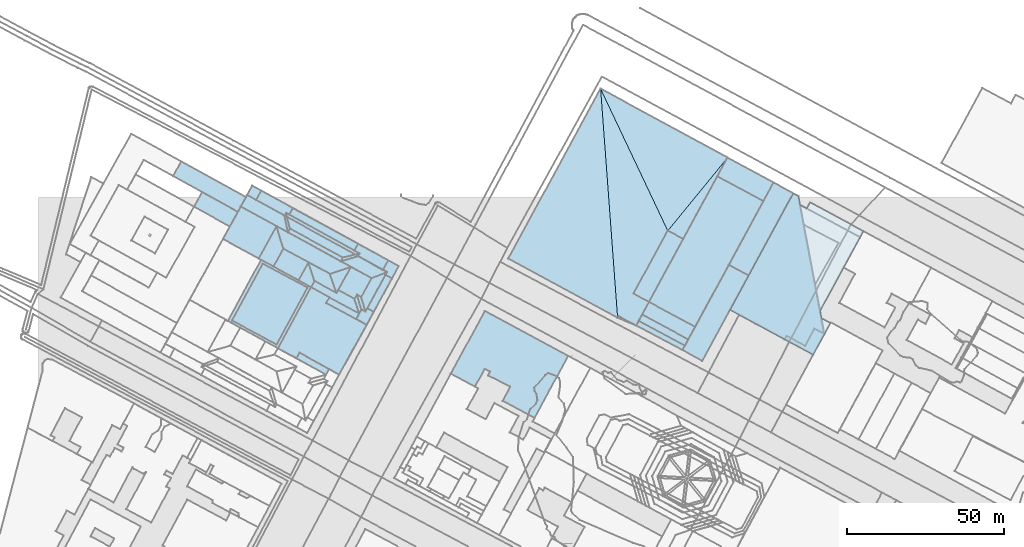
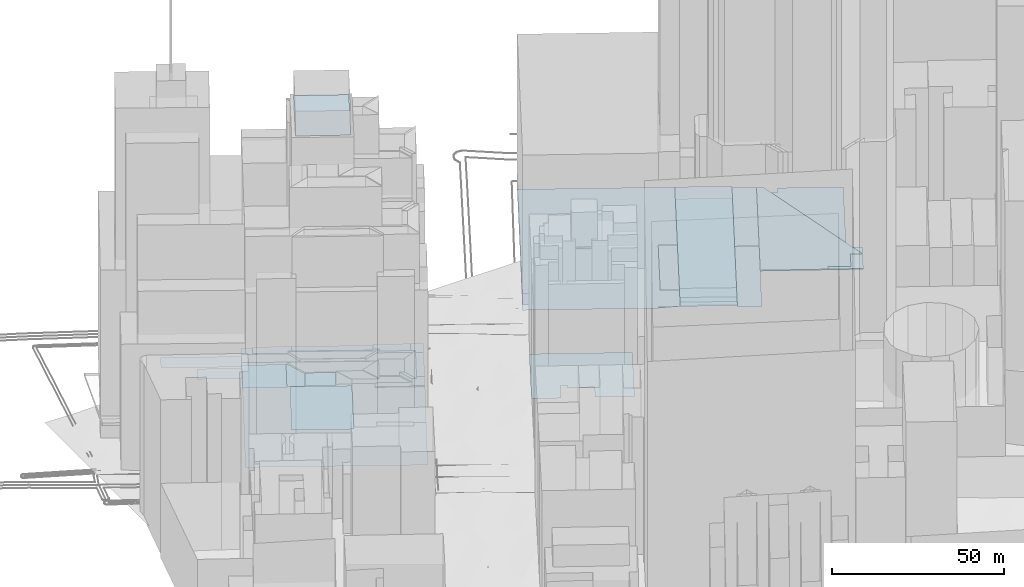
# Not in any storey, part 11 of 76: 45 footings.
"""IFC2X3 model written with IfcOpenShell, lengths in metres."""

from ifc_helpers import new_model, si_unit, frame, origin_with_axes, place, context, subcontext, project, faceted_brep, element, save


model = new_model("IFC2X3")

# Units and contexts
model_context = context("Model", 3, precision=1e-05, world=origin_with_axes())
body_context = subcontext(model_context, "Body", "Model", "MODEL_VIEW")
ifc_project = project(units=[si_unit("AREAUNIT", "SQUARE_METRE"), si_unit("LENGTHUNIT", "METRE")], contexts=[model_context])

# Footings
footing_1_placement = place(None, frame((219.6501998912, 358.1121317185, 21.8344391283), z_axis=(0.0, 0.0, 1.0), x_axis=(1.0, 0.0, 0.0)))
element("IfcFooting", 1, at=footing_1_placement, Name="Sol 0", PredefinedType="STRIP_FOOTING", context=body_context, shape_type="Brep", body=[
    faceted_brep([(6.2692645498, -3.4020859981, 0.0), (0.0, 0.0, 0.0), (14.1893424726, 26.1665450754, 0.0), (20.4756016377, 22.7535668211, 0.0)], [[[0, 1, 2]], [[2, 3, 0]]]),
])
footing_2_placement = place(None, frame((237.4075822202, 334.4377302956, 21.8574343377), z_axis=(0.0, 0.0, 1.0), x_axis=(1.0, 0.0, 0.0)))
element("IfcFooting", 2, at=footing_2_placement, Name="Sol 0", PredefinedType="STRIP_FOOTING", context=body_context, shape_type="Brep", body=[
    faceted_brep([(9.0722546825, -4.8904699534, 0.0), (0.0, 0.0, 0.0), (0.6119191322, 1.095140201, 0.0), (9.4062271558, 3.4068039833, 0.0), (12.6339095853, 1.6902007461, 0.0), (6.507259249, -2.0892360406, 0.0)], [[[0, 1, 2]], [[3, 4, 0]], [[0, 2, 5]], [[5, 3, 0]]]),
])
footing_3_placement = place(None, frame((220.0023122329, 343.8054149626, 21.493715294), z_axis=(0.0, 0.0, 1.0), x_axis=(1.0, 0.0, 0.0)))
element("IfcFooting", 3, at=footing_3_placement, Name="Sol 0", PredefinedType="STRIP_FOOTING", context=body_context, shape_type="Brep", body=[
    faceted_brep([(26.4775246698, -14.2581546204, 0.0), (0.0, 0.0, 0.0), (20.1234892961, 37.0602835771, 0.0), (29.1545647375, -2.74727068, 0.0), (31.9063663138, -4.1918534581, 0.0), (25.5002002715, 34.1918411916, 0.0), (42.4133124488, 25.0405352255, 0.0), (28.6785615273, -0.2881071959, 0.0), (21.8057455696, 36.1250606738, 0.0), (22.3276907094, 33.344465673, 0.0), (24.4257112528, 32.2253420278, 0.0)], [[[0, 1, 2]], [[3, 4, 0]], [[5, 6, 7]], [[2, 8, 9]], [[3, 0, 2]], [[10, 5, 7]], [[7, 3, 2]], [[9, 10, 7]], [[7, 2, 9]]]),
])
footing_4_placement = place(None, frame((220.0023122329, 343.8054149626, 21.8574343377), z_axis=(0.0, 0.0, 1.0), x_axis=(1.0, 0.0, 0.0)))
element("IfcFooting", 4, at=footing_4_placement, Name="Sol 0", PredefinedType="STRIP_FOOTING", context=body_context, shape_type="Brep", body=[
    faceted_brep([(17.4052699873, -9.367684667, 0.0), (0.0, 0.0, 0.0), (20.1234892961, 37.0602835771, 0.0), (26.8114971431, -5.9608806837, 0.0), (23.9125292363, -11.4569207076, 0.0), (18.0171891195, -8.272544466, 0.0), (21.8057455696, 36.1250606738, 0.0), (30.0391795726, -7.6774839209, 0.0)], [[[0, 1, 2]], [[3, 4, 5]], [[6, 7, 3]], [[0, 2, 6]], [[6, 3, 5]], [[5, 0, 6]]]),
])
footing_5_placement = place(None, frame((194.2357723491, 346.2924328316, 22.8993147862), z_axis=(0.0, 0.0, 1.0), x_axis=(1.0, 0.0, 0.0)))
element("IfcFooting", 5, at=footing_5_placement, Name="Sol 0", PredefinedType="STRIP_FOOTING", context=body_context, shape_type="Brep", body=[
    faceted_brep([(14.695507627, -7.911555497, 0.0), (0.0, 0.0, 0.0), (21.7021083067, 39.9651582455, 0.0), (36.3976918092, 32.0425454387, 0.0)], [[[0, 1, 2]], [[2, 3, 0]]]),
])
footing_6_placement = place(None, frame((189.3088417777, 348.9551990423, 22.410062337), z_axis=(0.0, 0.0, 1.0), x_axis=(1.0, 0.0, 0.0)))
element("IfcFooting", 6, at=footing_6_placement, Name="Sol 0", PredefinedType="STRIP_FOOTING", context=body_context, shape_type="Brep", body=[
    faceted_brep([(4.9269305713, -2.6627662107, 0.0), (0.0, 0.0, 0.0), (10.8841438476, 20.0440098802, 0.0), (15.5890804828, -17.9709220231, 0.0), (0.8608347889, -10.1485570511, 0.0), (29.8769383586, 43.2798772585, 0.0), (44.530700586, 35.3234777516, 0.0), (15.8109363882, 17.3923517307, 0.0)], [[[0, 1, 2]], [[3, 4, 0]], [[5, 6, 3]], [[0, 2, 7]], [[5, 3, 0]], [[0, 7, 5]]]),
])
footing_7_placement = place(None, frame((189.3088417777, 348.9551990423, 22.410062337), z_axis=(0.0, 0.0, 1.0), x_axis=(1.0, 0.0, 0.0)))
element("IfcFooting", 7, at=footing_7_placement, Name="Sol 0", PredefinedType="STRIP_FOOTING", context=body_context, shape_type="Brep", body=[
    faceted_brep([(4.9269305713, -2.6627662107, 0.0), (0.0, 0.0, 0.0), (10.8841438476, 20.0440098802, 0.0), (15.8109363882, 17.3923517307, 0.0)], [[[0, 1, 2]], [[2, 3, 0]]]),
])
footing_8_placement = place(None, frame((192.0622109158, 342.2925513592, 22.833956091), z_axis=(0.0, 0.0, 1.0), x_axis=(1.0, 0.0, 0.0)))
element("IfcFooting", 8, at=footing_8_placement, Name="Sol 0", PredefinedType="STRIP_FOOTING", context=body_context, shape_type="Brep", body=[
    faceted_brep([(14.6956420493, -7.9226606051, 0.0), (0.0, 0.0, 0.0), (2.1735614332, 3.9998814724, 0.0), (16.8690690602, -3.9116740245, 0.0)], [[[0, 1, 2]], [[2, 3, 0]]]),
])
footing_9_placement = place(None, frame((190.971338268, 340.2814610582, 22.7953305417), z_axis=(0.0, 0.0, 1.0), x_axis=(1.0, 0.0, 0.0)))
element("IfcFooting", 9, at=footing_9_placement, Name="Sol 0", PredefinedType="STRIP_FOOTING", context=body_context, shape_type="Brep", body=[
    faceted_brep([(14.6956447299, -7.9226627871, 0.0), (0.0, 0.0, 0.0), (1.0908726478, 2.011090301, 0.0), (15.7865146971, -5.9115703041, 0.0)], [[[0, 1, 2]], [[2, 3, 0]]]),
])
footing_10_placement = place(None, frame((190.1696765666, 338.8066419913, 22.7695470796), z_axis=(0.0, 0.0, 1.0), x_axis=(1.0, 0.0, 0.0)))
element("IfcFooting", 10, at=footing_10_placement, Name="Sol 0", PredefinedType="STRIP_FOOTING", context=body_context, shape_type="Brep", body=[
    faceted_brep([(14.728245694, -7.822364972, 0.0), (0.0, 0.0, 0.0), (0.8016617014, 1.4748190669, 0.0), (15.4973064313, -6.4478437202, 0.0)], [[[0, 1, 2]], [[2, 3, 0]]]),
])
footing_11_placement = place(None, frame((204.8979222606, 330.9842770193, 21.8344391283), z_axis=(0.0, 0.0, 1.0), x_axis=(1.0, 0.0, 0.0)))
element("IfcFooting", 11, at=footing_11_placement, Name="Sol 0", PredefinedType="STRIP_FOOTING", context=body_context, shape_type="Brep", body=[
    faceted_brep([(6.2862894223, -3.4130030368, 0.0), (0.0, 0.0, 0.0), (14.7522776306, 27.1278546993, 0.0), (21.0215421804, 23.7257687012, 0.0)], [[[0, 1, 2]], [[2, 3, 0]]]),
])
footing_12_placement = place(None, frame((131.2414210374, 323.4889407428, 19.5874307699), z_axis=(0.0, 0.0, 1.0), x_axis=(1.0, 0.0, 0.0)))
element("IfcFooting", 12, at=footing_12_placement, Name="Sol 0", PredefinedType="STRIP_FOOTING", context=body_context, shape_type="Brep", body=[
    faceted_brep([(7.6623465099, -4.1520283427, 0.0), (0.0, 0.0, 0.0), (10.8174622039, 19.9876323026, 0.0), (18.9140593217, -4.0989897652, 0.0), (11.7910505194, -0.5957385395, 0.0), (12.4605179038, 0.6332892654, 0.0), (26.6105246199, -14.0903890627, 0.0), (16.4763130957, -8.6126311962, 0.0), (37.2957336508, 5.6514960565, 0.0), (10.7530705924, 1.557139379, 0.0)], [[[0, 1, 2]], [[3, 4, 5]], [[6, 7, 3]], [[2, 8, 6]], [[9, 0, 2]], [[2, 6, 3]], [[5, 9, 2]], [[2, 3, 5]]]),
])
footing_13_placement = place(None, frame((149.4964624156, 360.1164702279, 22.410062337), z_axis=(0.0, 0.0, 1.0), x_axis=(1.0, 0.0, 0.0)))
element("IfcFooting", 13, at=footing_13_placement, Name="Sol 0", PredefinedType="STRIP_FOOTING", context=body_context, shape_type="Brep", body=[
    faceted_brep([(34.744220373, -18.8585502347, 0.0), (0.0, 0.0, 0.0), (29.3384984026, 54.0315411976, 0.0), (44.7393099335, -13.8240373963, 0.0), (40.6732141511, -21.3098282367, 0.0), (69.6893177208, 32.1186060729, 0.0), (55.6233157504, 6.2310805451, 0.0), (50.6965232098, 8.8827386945, 0.0), (39.8123793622, -11.1612711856, 0.0)], [[[0, 1, 2]], [[3, 4, 0]], [[5, 6, 7]], [[8, 3, 0]], [[2, 5, 7]], [[8, 0, 2]], [[2, 7, 8]]]),
])
footing_14_placement = place(None, frame((149.4964624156, 360.1164702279, 22.410062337), z_axis=(0.0, 0.0, 1.0), x_axis=(1.0, 0.0, 0.0)))
element("IfcFooting", 14, at=footing_14_placement, Name="Sol 0", PredefinedType="STRIP_FOOTING", context=body_context, shape_type="Brep", body=[
    faceted_brep([(34.744220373, -18.8585502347, 0.0), (0.0, 0.0, 0.0), (29.3384984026, 54.0315411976, 0.0), (44.7393099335, -13.8240373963, 0.0), (40.6732141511, -21.3098282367, 0.0), (35.0417433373, -18.3110805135, 0.0), (69.6893177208, 32.1186060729, 0.0), (55.6233157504, 6.2310805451, 0.0), (50.6965232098, 8.8827386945, 0.0), (39.8123793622, -11.1612711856, 0.0)], [[[0, 1, 2]], [[3, 4, 5]], [[6, 7, 8]], [[5, 0, 2]], [[9, 3, 5]], [[2, 6, 8]], [[9, 5, 2]], [[2, 8, 9]]]),
])
footing_15_placement = place(None, frame((96.2081885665, 359.2420118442, 24.1378546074), z_axis=(0.0, 0.0, 1.0), x_axis=(1.0, 0.0, 0.0)))
element("IfcFooting", 15, at=footing_15_placement, Name="Sol 0", PredefinedType="STRIP_FOOTING", context=body_context, shape_type="Brep", body=[
    faceted_brep([(5.476758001, 1.5957227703, 0.0), (0.0, 0.0, 0.0), (0.6444088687, 1.2065279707, 0.0), (5.9728530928, 2.4896654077, 0.0)], [[[0, 1, 2]], [[2, 3, 0]]]),
])
footing_16_placement = place(None, frame((100.5582678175, 362.6343155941, 24.249661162), z_axis=(0.0, 0.0, 1.0), x_axis=(1.0, 0.0, 0.0)))
element("IfcFooting", 16, at=footing_16_placement, Name="Sol 0", PredefinedType="STRIP_FOOTING", context=body_context, shape_type="Brep", body=[
    faceted_brep([(1.6227738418, -0.9026383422, 0.0), (0.0, 0.0, 0.0), (1.1989392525, 2.1566610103, 0.0), (9.0533233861, -6.1787158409, 0.0), (1.12667875, -1.7965809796, 0.0), (10.7731599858, -3.0834129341, 0.0)], [[[0, 1, 2]], [[3, 4, 0]], [[2, 5, 3]], [[3, 0, 2]]]),
])
footing_17_placement = place(None, frame((95.4278204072, 350.1179975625, 24.1757851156), z_axis=(0.0, 0.0, 1.0), x_axis=(1.0, 0.0, 0.0)))
element("IfcFooting", 17, at=footing_17_placement, Name="Sol 0", PredefinedType="STRIP_FOOTING", context=body_context, shape_type="Brep", body=[
    faceted_brep([(5.1904741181, -2.8263004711, 0.0), (0.0, 0.0, 0.0), (4.0340988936, 7.3410355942, 0.0), (10.6093444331, 3.7536652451, 0.0), (7.3274473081, -2.2130597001, 0.0), (5.942800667, -1.4630871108, 0.0)], [[[0, 1, 2]], [[3, 4, 5]], [[5, 0, 2]], [[2, 3, 5]]]),
])
footing_18_placement = place(None, frame((100.6182945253, 347.2916970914, 24.2468793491), z_axis=(0.0, 0.0, 1.0), x_axis=(1.0, 0.0, 0.0)))
element("IfcFooting", 18, at=footing_18_placement, Name="Sol 0", PredefinedType="STRIP_FOOTING", context=body_context, shape_type="Brep", body=[
    faceted_brep([(1.4724916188, -4.6791504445, 0.0), (0.0, 0.0, 0.0), (0.7523265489, 1.3632133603, 0.0), (2.1913155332, -3.3385306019, 0.0)], [[[0, 1, 2]], [[2, 3, 0]]]),
])
footing_19_placement = place(None, frame((101.3706210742, 348.6549104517, 24.232721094), z_axis=(0.0, 0.0, 1.0), x_axis=(1.0, 0.0, 0.0)))
element("IfcFooting", 19, at=footing_19_placement, Name="Sol 0", PredefinedType="STRIP_FOOTING", context=body_context, shape_type="Brep", body=[
    faceted_brep([(1.4389889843, -4.7017439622, 0.0), (0.0, 0.0, 0.0), (1.3846466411, -0.7499725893, 0.0), (2.7214517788, -5.3751874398, 0.0)], [[[0, 1, 2]], [[2, 3, 0]]]),
])
footing_20_placement = place(None, frame((104.621027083, 344.2517632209, 24.2058781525), z_axis=(0.0, 0.0, 1.0), x_axis=(1.0, 0.0, 0.0)))
element("IfcFooting", 20, at=footing_20_placement, Name="Sol 0", PredefinedType="STRIP_FOOTING", context=body_context, shape_type="Brep", body=[
    faceted_brep([(2.0982656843, -1.14136393, 0.0), (0.0, 0.0, 0.0), (5.7938113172, 10.6366471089, 0.0), (7.8835058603, 9.5062875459, 0.0)], [[[0, 1, 2]], [[2, 3, 0]]]),
])
footing_21_placement = place(None, frame((102.7552677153, 347.9049378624, 24.232721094), z_axis=(0.0, 0.0, 1.0), x_axis=(1.0, 0.0, 0.0)))
element("IfcFooting", 21, at=footing_21_placement, Name="Sol 0", PredefinedType="STRIP_FOOTING", context=body_context, shape_type="Brep", body=[
    faceted_brep([(1.3368051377, -4.6252148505, 0.0), (0.0, 0.0, 0.0), (3.281897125, 5.9667249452, 0.0), (8.1803409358, 7.9332136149, 0.0)], [[[0, 1, 2]], [[2, 3, 0]]]),
])
footing_22_placement = place(None, frame((109.6115912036, 356.4555997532, 24.2810848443), z_axis=(0.0, 0.0, 1.0), x_axis=(1.0, 0.0, 0.0)))
element("IfcFooting", 22, at=footing_22_placement, Name="Sol 0", PredefinedType="STRIP_FOOTING", context=body_context, shape_type="Brep", body=[
    faceted_brep([(1.3240174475, -0.6174482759, 0.0), (0.0, 0.0, 0.0), (1.7198365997, 3.0953029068, 0.0), (2.8929417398, -2.6975489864, 0.0), (0.8032471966, -1.5671894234, 0.0), (5.0500484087, 1.268810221, 0.0)], [[[0, 1, 2]], [[3, 4, 0]], [[2, 5, 3]], [[3, 0, 2]]]),
])
footing_23_placement = place(None, frame((101.1237847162, 340.8360563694, 24.2058781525), z_axis=(0.0, 0.0, 1.0), x_axis=(1.0, 0.0, 0.0)))
element("IfcFooting", 23, at=footing_23_placement, Name="Sol 0", PredefinedType="STRIP_FOOTING", context=body_context, shape_type="Brep", body=[
    faceted_brep([(3.3638492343, -1.8150044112, 0.0), (0.0, 0.0, 0.0), (1.6858253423, 3.1171101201, 0.0), (3.4972423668, 3.4157068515, 0.0), (5.5955080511, 2.2743429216, 0.0), (2.9682881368, 2.4436666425, 0.0)], [[[0, 1, 2]], [[3, 4, 0]], [[0, 2, 5]], [[5, 3, 0]]]),
])
footing_24_placement = place(None, frame((76.2199031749, 331.5540131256, 23.8161532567), z_axis=(0.0, 0.0, 1.0), x_axis=(1.0, 0.0, 0.0)))
element("IfcFooting", 24, at=footing_24_placement, Name="Sol 0", PredefinedType="STRIP_FOOTING", context=body_context, shape_type="Brep", body=[
    faceted_brep([(5.886443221, -3.1512997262, 0.0), (0.0, 0.0, 0.0), (10.5539558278, 19.4293756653, 0.0), (28.2677307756, 7.4670388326, 0.0), (19.4873212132, -8.4001453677, 0.0), (6.870460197, -1.3857167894, 0.0), (16.3907789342, 16.1886902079, 0.0), (15.4237759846, 14.4122011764, 0.0)], [[[0, 1, 2]], [[3, 4, 5]], [[2, 6, 7]], [[5, 0, 2]], [[7, 3, 5]], [[5, 2, 7]]]),
])
footing_25_placement = place(None, frame((91.6436791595, 345.966214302, 24.0394007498), z_axis=(0.0, 0.0, 1.0), x_axis=(1.0, 0.0, 0.0)))
element("IfcFooting", 25, at=footing_25_placement, Name="Sol 0", PredefinedType="STRIP_FOOTING", context=body_context, shape_type="Brep", body=[
    faceted_brep([(9.4801055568, -5.1301579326, 0.0), (0.0, 0.0, 0.0), (0.9670029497, 1.7764890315, 0.0), (10.4471069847, -3.353667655, 0.0)], [[[0, 1, 2]], [[2, 3, 0]]]),
])
footing_26_placement = place(None, frame((86.7738590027, 350.9833887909, 23.8161532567), z_axis=(0.0, 0.0, 1.0), x_axis=(1.0, 0.0, 0.0)))
element("IfcFooting", 26, at=footing_26_placement, Name="Sol 0", PredefinedType="STRIP_FOOTING", context=body_context, shape_type="Brep", body=[
    faceted_brep([(5.8368231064, -3.2406854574, 0.0), (0.0, 0.0, 0.0), (1.1079080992, 2.0001698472, 0.0), (13.8444355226, -3.6916916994, 0.0), (15.3169271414, -8.3708421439, 0.0), (8.1165662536, -1.8375288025, 0.0), (8.6539614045, -0.8653912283, 0.0)], [[[0, 1, 2]], [[3, 4, 0]], [[5, 6, 3]], [[0, 2, 5]], [[5, 3, 0]]]),
])
footing_27_placement = place(None, frame((92.8106246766, 355.2390469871, 24.0480155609), z_axis=(0.0, 0.0, 1.0), x_axis=(1.0, 0.0, 0.0)))
element("IfcFooting", 27, at=footing_27_placement, Name="Sol 0", PredefinedType="STRIP_FOOTING", context=body_context, shape_type="Brep", body=[
    faceted_brep([(2.0798005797, -6.0931869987, 0.0), (0.0, 0.0, 0.0), (6.6512946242, 2.2199861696, 0.0)], [[[0, 1, 2]]]),
])
footing_28_placement = place(None, frame((79.4722561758, 368.4179540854, 23.5718630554), z_axis=(0.0, 0.0, 1.0), x_axis=(1.0, 0.0, 0.0)))
element("IfcFooting", 28, at=footing_28_placement, Name="Sol 0", PredefinedType="STRIP_FOOTING", context=body_context, shape_type="Brep", body=[
    faceted_brep([(16.7359323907, -9.1759422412, 0.0), (0.0, 0.0, 0.0), (0.6023388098, 1.1949356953, 0.0), (17.3803412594, -7.9694142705, 0.0)], [[[0, 1, 2]], [[2, 3, 0]]]),
])
footing_29_placement = place(None, frame((75.8192697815, 370.4183503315, 23.455162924), z_axis=(0.0, 0.0, 1.0), x_axis=(1.0, 0.0, 0.0)))
element("IfcFooting", 29, at=footing_29_placement, Name="Sol 0", PredefinedType="STRIP_FOOTING", context=body_context, shape_type="Brep", body=[
    faceted_brep([(2.1596786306, -7.1580802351, 0.0), (0.0, 0.0, 0.0), (23.6426495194, -12.9593171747, 0.0), (16.9913548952, -15.1793033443, 0.0)], [[[0, 1, 2]], [[2, 3, 0]]]),
])
footing_30_placement = place(None, frame((85.9220693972, 358.9116084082, 23.7825598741), z_axis=(0.0, 0.0, 1.0), x_axis=(1.0, 0.0, 0.0)))
element("IfcFooting", 30, at=footing_30_placement, Name="Sol 0", PredefinedType="STRIP_FOOTING", context=body_context, shape_type="Brep", body=[
    faceted_brep([(1.9596977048, -5.9280497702, 0.0), (0.0, 0.0, 0.0), (6.8885552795, -3.6725614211, 0.0), (8.9683558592, -9.7657484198, 0.0)], [[[0, 1, 2]], [[2, 3, 0]]]),
])
footing_31_placement = place(None, frame((82.7722366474, 353.201778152, 23.6513045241), z_axis=(0.0, 0.0, 1.0), x_axis=(1.0, 0.0, 0.0)))
element("IfcFooting", 31, at=footing_31_placement, Name="Sol 0", PredefinedType="STRIP_FOOTING", context=body_context, shape_type="Brep", body=[
    faceted_brep([(4.0016223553, -2.2183893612, 0.0), (0.0, 0.0, 0.0), (3.1498327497, 5.7098302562, 0.0), (5.1095304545, -0.218219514, 0.0)], [[[0, 1, 2]], [[2, 3, 0]]]),
])
footing_32_placement = place(None, frame((74.8292405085, 357.53934249, 23.2877785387), z_axis=(0.0, 0.0, 1.0), x_axis=(1.0, 0.0, 0.0)))
element("IfcFooting", 32, at=footing_32_placement, Name="Sol 0", PredefinedType="STRIP_FOOTING", context=body_context, shape_type="Brep", body=[
    faceted_brep([(7.9429961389, -4.337564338, 0.0), (0.0, 0.0, 0.0), (3.1497079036, 5.7209276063, 0.0), (11.0928288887, 1.3722659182, 0.0)], [[[0, 1, 2]], [[2, 3, 0]]]),
])
footing_33_placement = place(None, frame((38.8830888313, 330.1657711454, 23.4054188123), z_axis=(0.0, 0.0, 1.0), x_axis=(1.0, 0.0, 0.0)))
element("IfcFooting", 33, at=footing_33_placement, Name="Sol 0", PredefinedType="STRIP_FOOTING", context=body_context, shape_type="Brep", body=[
    faceted_brep([(46.6647208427, -25.5263239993, 0.0), (0.0, 0.0, 0.0), (29.2065067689, 53.1191580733, 0.0), (75.778550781, 27.5586388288, 0.0)], [[[0, 1, 2]], [[2, 3, 0]]]),
])
footing_34_placement = place(None, frame((61.6318682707, 340.3996652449, 127.1275293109), z_axis=(0.0, 0.0, 1.0), x_axis=(1.0, 0.0, 0.0)))
element("IfcFooting", 34, at=footing_34_placement, Name="Sol 0", PredefinedType="STRIP_FOOTING", context=body_context, shape_type="Brep", body=[
    faceted_brep([(14.1943048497, -7.651180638, 0.0), (0.0, 0.0, 0.0), (9.81827195, 18.0885419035, 0.0), (24.0125535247, 10.4373802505, 0.0)], [[[0, 1, 2]], [[2, 3, 0]]]),
])
footing_35_placement = place(None, frame((60.3249272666, 340.2734696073, 23.0925662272), z_axis=(0.0, 0.0, 1.0), x_axis=(1.0, 0.0, 0.0)))
element("IfcFooting", 35, at=footing_35_placement, Name="Sol 0", PredefinedType="STRIP_FOOTING", context=body_context, shape_type="Brep", body=[
    faceted_brep([(15.8949759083, -8.7194564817, 0.0), (0.0, 0.0, 0.0), (10.5539835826, 19.4293528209, 0.0), (26.4489317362, 10.7099191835, 0.0)], [[[0, 1, 2]], [[2, 3, 0]]]),
])
footing_36_placement = place(None, frame((70.1312780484, 360.1160272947, 23.0634036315), z_axis=(0.0, 0.0, 1.0), x_axis=(1.0, 0.0, 0.0)))
element("IfcFooting", 36, at=footing_36_placement, Name="Sol 0", PredefinedType="STRIP_FOOTING", context=body_context, shape_type="Brep", body=[
    faceted_brep([(4.6979624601, -2.5766848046, 0.0), (0.0, 0.0, 0.0), (5.6879917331, 10.3023230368, 0.0), (7.8476703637, 3.1442428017, 0.0)], [[[0, 1, 2]], [[2, 3, 0]]]),
])
footing_37_placement = place(None, frame((42.8821759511, 386.3451752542, 23.3606694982), z_axis=(0.0, 0.0, 1.0), x_axis=(1.0, 0.0, 0.0)))
element("IfcFooting", 37, at=footing_37_placement, Name="Sol 0", PredefinedType="STRIP_FOOTING", context=body_context, shape_type="Brep", body=[
    faceted_brep([(20.6194143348, -11.4068981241, 0.0), (0.0, 0.0, 0.0), (2.5966002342, 4.6486773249, 0.0), (23.1902990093, -6.725205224, 0.0)], [[[0, 1, 2]], [[2, 3, 0]]]),
])
footing_38_placement = place(None, frame((49.545894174, 376.5859303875, 22.872031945), z_axis=(0.0, 0.0, 1.0), x_axis=(1.0, 0.0, 0.0)))
element("IfcFooting", 38, at=footing_38_placement, Name="Sol 0", PredefinedType="STRIP_FOOTING", context=body_context, shape_type="Brep", body=[
    faceted_brep([(11.3929905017, -6.3070456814, 0.0), (0.0, 0.0, 0.0), (2.5882884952, 4.637480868, 0.0), (13.9556961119, -1.6476532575, 0.0)], [[[0, 1, 2]], [[2, 3, 0]]]),
])
footing_39_placement = place(None, frame((58.756433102, 366.3122475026, 22.6869888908), z_axis=(0.0, 0.0, 1.0), x_axis=(1.0, 0.0, 0.0)))
element("IfcFooting", 39, at=footing_39_placement, Name="Sol 0", PredefinedType="STRIP_FOOTING", context=body_context, shape_type="Brep", body=[
    faceted_brep([(11.3748449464, -6.196220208, 0.0), (0.0, 0.0, 0.0), (5.6791754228, 10.3355185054, 0.0), (17.0628366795, 4.1061028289, 0.0)], [[[0, 1, 2]], [[2, 3, 0]]]),
])
footing_40_placement = place(None, frame((69.2904287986, 378.7358456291, 23.7854365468), z_axis=(0.0, 0.0, 1.0), x_axis=(1.0, 0.0, 0.0)))
element("IfcFooting", 40, at=footing_40_placement, Name="Sol 0", PredefinedType="STRIP_FOOTING", context=body_context, shape_type="Brep", body=[
    faceted_brep([(9.0394844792, -4.9909724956, 0.0), (0.0, 0.0, 0.0), (1.653744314, 2.9724011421, 0.0), (11.6874272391, -2.5843414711, 0.0), (10.5380936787, -4.6516049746, 0.0), (9.5440215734, -4.0969334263, 0.0)], [[[0, 1, 2]], [[3, 4, 5]], [[5, 0, 2]], [[2, 3, 5]]]),
])
footing_41_placement = place(None, frame((78.3299132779, 373.7448731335, 23.5718630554), z_axis=(0.0, 0.0, 1.0), x_axis=(1.0, 0.0, 0.0)))
element("IfcFooting", 41, at=footing_41_placement, Name="Sol 0", PredefinedType="STRIP_FOOTING", context=body_context, shape_type="Brep", body=[
    faceted_brep([(1.1423428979, -5.3269190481, 0.0), (0.0, 0.0, 0.0), (0.5045370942, 0.8940390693, 0.0), (1.7446817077, -4.1319833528, 0.0)], [[[0, 1, 2]], [[2, 3, 0]]]),
])
footing_42_placement = place(None, frame((64.4356085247, 376.647766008, 23.5361312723), z_axis=(0.0, 0.0, 1.0), x_axis=(1.0, 0.0, 0.0)))
element("IfcFooting", 42, at=footing_42_placement, Name="Sol 0", PredefinedType="STRIP_FOOTING", context=body_context, shape_type="Brep", body=[
    faceted_brep([(41.6015563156, -22.7761032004, 0.0), (0.0, 0.0, 0.0), (2.0171223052, 3.6649587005, 0.0), (46.5000001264, -20.8096145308, 0.0)], [[[0, 1, 2]], [[2, 3, 0]]]),
])
footing_43_placement = place(None, frame((78.834450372, 374.6389122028, 23.6117030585), z_axis=(0.0, 0.0, 1.0), x_axis=(1.0, 0.0, 0.0)))
element("IfcFooting", 43, at=footing_43_placement, Name="Sol 0", PredefinedType="STRIP_FOOTING", context=body_context, shape_type="Brep", body=[
    faceted_brep([(1.2401446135, -5.0260224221, 0.0), (0.0, 0.0, 0.0), (23.3465912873, -12.9072349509, 0.0), (18.0181470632, -14.1903723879, 0.0)], [[[0, 1, 2]], [[2, 3, 0]]]),
])
footing_44_placement = place(None, frame((79.8285224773, 374.0842406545, 23.8438960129), z_axis=(0.0, 0.0, 1.0), x_axis=(1.0, 0.0, 0.0)))
element("IfcFooting", 44, at=footing_44_placement, Name="Sol 0", PredefinedType="STRIP_FOOTING", context=body_context, shape_type="Brep", body=[
    faceted_brep([(20.7297453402, -11.4499250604, 0.0), (0.0, 0.0, 0.0), (1.1493335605, 2.0672635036, 0.0), (21.9286845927, -9.29326405, 0.0)], [[[0, 1, 2]], [[2, 3, 0]]]),
])
footing_45_placement = place(None, frame((82.1063463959, 328.4027133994, 24.0355533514), z_axis=(0.0, 0.0, 1.0), x_axis=(1.0, 0.0, 0.0)))
element("IfcFooting", 45, at=footing_45_placement, Name="Sol 0", PredefinedType="STRIP_FOOTING", context=body_context, shape_type="Brep", body=[
    faceted_brep([(9.4221994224, -5.2307632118, 0.0), (0.0, 0.0, 0.0), (0.984016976, 1.7655829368, 0.0), (10.4062149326, -3.465179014, 0.0)], [[[0, 1, 2]], [[2, 3, 0]]]),
])

save(model, "model.ifc")
